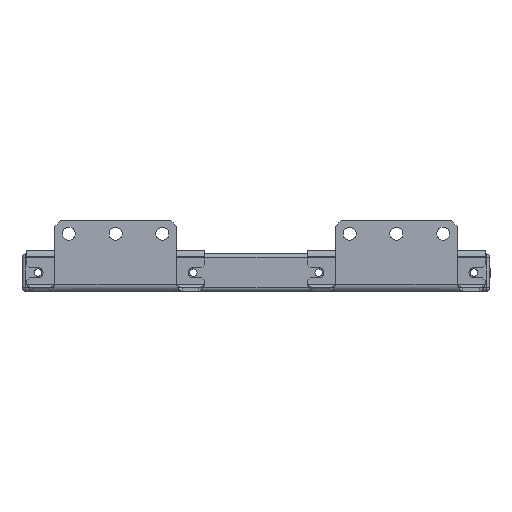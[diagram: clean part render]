
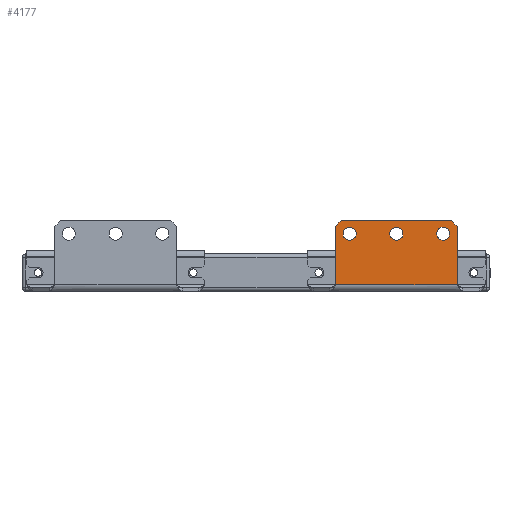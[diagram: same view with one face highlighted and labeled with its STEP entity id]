
A CAD part, left-side view. The second image highlights one B-rep face of the part: STEP entity #4177.
In plain terms, the highlighted planar face has unit normal (-1, 0, 0).
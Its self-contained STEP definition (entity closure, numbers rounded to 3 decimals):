
#1835 = ORIENTED_EDGE ( 'NONE', *, *, #11681, .F. ) ;
#1836 = ORIENTED_EDGE ( 'NONE', *, *, #11481, .T. ) ;
#1837 = ORIENTED_EDGE ( 'NONE', *, *, #11683, .T. ) ;
#1838 = ORIENTED_EDGE ( 'NONE', *, *, #11684, .T. ) ;
#1839 = ORIENTED_EDGE ( 'NONE', *, *, #11522, .T. ) ;
#1840 = ORIENTED_EDGE ( 'NONE', *, *, #11682, .T. ) ;
#1841 = ORIENTED_EDGE ( 'NONE', *, *, #11508, .T. ) ;
#1842 = ORIENTED_EDGE ( 'NONE', *, *, #11680, .F. ) ;
#1843 = ORIENTED_EDGE ( 'NONE', *, *, #11790, .F. ) ;
#1844 = ORIENTED_EDGE ( 'NONE', *, *, #11679, .T. ) ;
#1845 = ORIENTED_EDGE ( 'NONE', *, *, #11687, .F. ) ;
#1846 = ORIENTED_EDGE ( 'NONE', *, *, #11765, .F. ) ;
#2997 = FACE_OUTER_BOUND ( 'NONE', #4779, .T. ) ;
#2999 = FACE_BOUND ( 'NONE', #4780, .T. ) ;
#3002 = FACE_BOUND ( 'NONE', #4676, .T. ) ;
#3003 = FACE_BOUND ( 'NONE', #4648, .T. ) ;
#3008 = AXIS2_PLACEMENT_3D ( 'NONE', #7773, #7774, #7775 ) ;
#3694 = CIRCLE ( 'NONE', #12276, 3.5 ) ;
#3695 = CIRCLE ( 'NONE', #12274, 3.5 ) ;
#3696 = CIRCLE ( 'NONE', #12269, 3.5 ) ;
#3719 = CIRCLE ( 'NONE', #12561, 3.5 ) ;
#3725 = CIRCLE ( 'NONE', #12576, 3.5 ) ;
#3729 = CIRCLE ( 'NONE', #12611, 3.5 ) ;
#4177 = ADVANCED_FACE ( 'NONE', ( #3003, #3002, #2999, #2997 ), #7772, .F. ) ;
#4648 = EDGE_LOOP ( 'NONE', ( #1836, #1837 ) ) ;
#4676 = EDGE_LOOP ( 'NONE', ( #1839, #1838 ) ) ;
#4779 = EDGE_LOOP ( 'NONE', ( #1843, #1842, #1835, #1844, #1845, #1846 ) ) ;
#4780 = EDGE_LOOP ( 'NONE', ( #1841, #1840 ) ) ;
#6237 = VERTEX_POINT ( 'NONE', #8812 ) ;
#6238 = VERTEX_POINT ( 'NONE', #8813 ) ;
#6329 = VERTEX_POINT ( 'NONE', #8904 ) ;
#6330 = VERTEX_POINT ( 'NONE', #8905 ) ;
#6337 = VERTEX_POINT ( 'NONE', #8914 ) ;
#6338 = VERTEX_POINT ( 'NONE', #8915 ) ;
#6339 = VERTEX_POINT ( 'NONE', #8916 ) ;
#6340 = VERTEX_POINT ( 'NONE', #8917 ) ;
#6361 = VERTEX_POINT ( 'NONE', #8938 ) ;
#6362 = VERTEX_POINT ( 'NONE', #8939 ) ;
#6367 = VERTEX_POINT ( 'NONE', #8944 ) ;
#6368 = VERTEX_POINT ( 'NONE', #8945 ) ;
#7772 = PLANE ( 'NONE',  #3008 ) ;
#7773 = CARTESIAN_POINT ( 'NONE',  ( -342.5, -27.5, 37.75 ) ) ;
#7774 = DIRECTION ( 'NONE',  ( 1., 0., 0. ) ) ;
#7775 = DIRECTION ( 'NONE',  ( 0., 0., 1. ) ) ;
#8812 = CARTESIAN_POINT ( 'NONE',  ( -342.5, -42.5, 34.75 ) ) ;
#8813 = CARTESIAN_POINT ( 'NONE',  ( -342.5, -42.5, 3.5 ) ) ;
#8904 = CARTESIAN_POINT ( 'NONE',  ( -342.5, -50., 34.25 ) ) ;
#8905 = CARTESIAN_POINT ( 'NONE',  ( -342.5, -50., 27.25 ) ) ;
#8914 = CARTESIAN_POINT ( 'NONE',  ( -342.5, -100., 34.25 ) ) ;
#8915 = CARTESIAN_POINT ( 'NONE',  ( -342.5, -100., 27.25 ) ) ;
#8916 = CARTESIAN_POINT ( 'NONE',  ( -342.5, -75., 34.25 ) ) ;
#8917 = CARTESIAN_POINT ( 'NONE',  ( -342.5, -75., 27.25 ) ) ;
#8938 = CARTESIAN_POINT ( 'NONE',  ( -342.5, -107.5, 34.75 ) ) ;
#8939 = CARTESIAN_POINT ( 'NONE',  ( -342.5, -107.5, 3.5 ) ) ;
#8944 = CARTESIAN_POINT ( 'NONE',  ( -342.5, -45.5, 37.75 ) ) ;
#8945 = CARTESIAN_POINT ( 'NONE',  ( -342.5, -104.5, 37.75 ) ) ;
#10086 = CARTESIAN_POINT ( 'NONE',  ( -342.5, -75., 30.75 ) ) ;
#10090 = DIRECTION ( 'NONE',  ( 1., 0., 0. ) ) ;
#10091 = DIRECTION ( 'NONE',  ( 0., 0., -1. ) ) ;
#10168 = CARTESIAN_POINT ( 'NONE',  ( -342.5, -50., 30.75 ) ) ;
#10202 = DIRECTION ( 'NONE',  ( 1., 0., 0. ) ) ;
#10203 = DIRECTION ( 'NONE',  ( 0., 0., -1. ) ) ;
#10240 = CARTESIAN_POINT ( 'NONE',  ( -342.5, -100., 30.75 ) ) ;
#10244 = DIRECTION ( 'NONE',  ( 1., 0., 0. ) ) ;
#10245 = DIRECTION ( 'NONE',  ( 0., 0., -1. ) ) ;
#10783 = CARTESIAN_POINT ( 'NONE',  ( -342.5, -50., 30.75 ) ) ;
#10787 = LINE ( 'NONE', #10788, #12271 ) ;
#10788 = CARTESIAN_POINT ( 'NONE',  ( -342.5, -27.5, 3.5 ) ) ;
#10789 = DIRECTION ( 'NONE',  ( 0., -1., 0. ) ) ;
#10790 = LINE ( 'NONE', #10791, #12270 ) ;
#10791 = CARTESIAN_POINT ( 'NONE',  ( -342.5, -42.5, 34.75 ) ) ;
#10792 = DIRECTION ( 'NONE',  ( 0., -0.707, 0.707 ) ) ;
#10793 = LINE ( 'NONE', #10794, #12268 ) ;
#10794 = CARTESIAN_POINT ( 'NONE',  ( -342.5, -42.5, 37.75 ) ) ;
#10795 = DIRECTION ( 'NONE',  ( 0., 0., 1. ) ) ;
#10796 = DIRECTION ( 'NONE',  ( 1., 0., 0. ) ) ;
#10797 = DIRECTION ( 'NONE',  ( 0., 0., -1. ) ) ;
#10798 = CARTESIAN_POINT ( 'NONE',  ( -342.5, -75., 30.75 ) ) ;
#10799 = DIRECTION ( 'NONE',  ( 1., 0., 0. ) ) ;
#10800 = DIRECTION ( 'NONE',  ( 0., 0., -1. ) ) ;
#10801 = CARTESIAN_POINT ( 'NONE',  ( -342.5, -100., 30.75 ) ) ;
#10802 = DIRECTION ( 'NONE',  ( 1., 0., 0. ) ) ;
#10803 = DIRECTION ( 'NONE',  ( 0., 0., -1. ) ) ;
#10810 = LINE ( 'NONE', #10811, #12265 ) ;
#10811 = CARTESIAN_POINT ( 'NONE',  ( -342.5, -107.5, 37.75 ) ) ;
#10812 = DIRECTION ( 'NONE',  ( 0., 0., -1. ) ) ;
#11077 = LINE ( 'NONE', #11078, #12176 ) ;
#11078 = CARTESIAN_POINT ( 'NONE',  ( -342.5, -104.5, 37.75 ) ) ;
#11079 = DIRECTION ( 'NONE',  ( 0., -0.707, -0.707 ) ) ;
#11153 = LINE ( 'NONE', #11154, #12143 ) ;
#11154 = CARTESIAN_POINT ( 'NONE',  ( -342.5, -27.5, 37.75 ) ) ;
#11155 = DIRECTION ( 'NONE',  ( 0., -1., 0. ) ) ;
#11481 = EDGE_CURVE ( 'NONE', #6340, #6339, #3729, .T. ) ;
#11508 = EDGE_CURVE ( 'NONE', #6330, #6329, #3725, .T. ) ;
#11522 = EDGE_CURVE ( 'NONE', #6338, #6337, #3719, .T. ) ;
#11679 = EDGE_CURVE ( 'NONE', #6238, #6362, #10787, .T. ) ;
#11680 = EDGE_CURVE ( 'NONE', #6237, #6367, #10790, .T. ) ;
#11681 = EDGE_CURVE ( 'NONE', #6238, #6237, #10793, .T. ) ;
#11682 = EDGE_CURVE ( 'NONE', #6329, #6330, #3696, .T. ) ;
#11683 = EDGE_CURVE ( 'NONE', #6339, #6340, #3695, .T. ) ;
#11684 = EDGE_CURVE ( 'NONE', #6337, #6338, #3694, .T. ) ;
#11687 = EDGE_CURVE ( 'NONE', #6361, #6362, #10810, .T. ) ;
#11765 = EDGE_CURVE ( 'NONE', #6368, #6361, #11077, .T. ) ;
#11790 = EDGE_CURVE ( 'NONE', #6367, #6368, #11153, .T. ) ;
#12143 = VECTOR ( 'NONE', #11155, 1000. ) ;
#12176 = VECTOR ( 'NONE', #11079, 1000. ) ;
#12265 = VECTOR ( 'NONE', #10812, 1000. ) ;
#12268 = VECTOR ( 'NONE', #10795, 1000. ) ;
#12269 = AXIS2_PLACEMENT_3D ( 'NONE', #10783, #10796, #10797 ) ;
#12270 = VECTOR ( 'NONE', #10792, 1000. ) ;
#12271 = VECTOR ( 'NONE', #10789, 1000. ) ;
#12274 = AXIS2_PLACEMENT_3D ( 'NONE', #10798, #10799, #10800 ) ;
#12276 = AXIS2_PLACEMENT_3D ( 'NONE', #10801, #10802, #10803 ) ;
#12561 = AXIS2_PLACEMENT_3D ( 'NONE', #10240, #10244, #10245 ) ;
#12576 = AXIS2_PLACEMENT_3D ( 'NONE', #10168, #10202, #10203 ) ;
#12611 = AXIS2_PLACEMENT_3D ( 'NONE', #10086, #10090, #10091 ) ;
